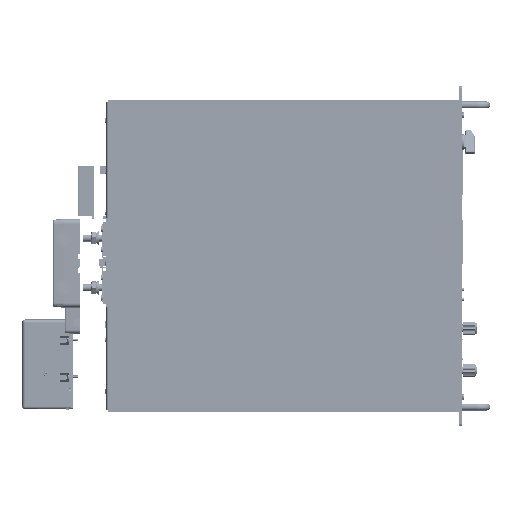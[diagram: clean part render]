
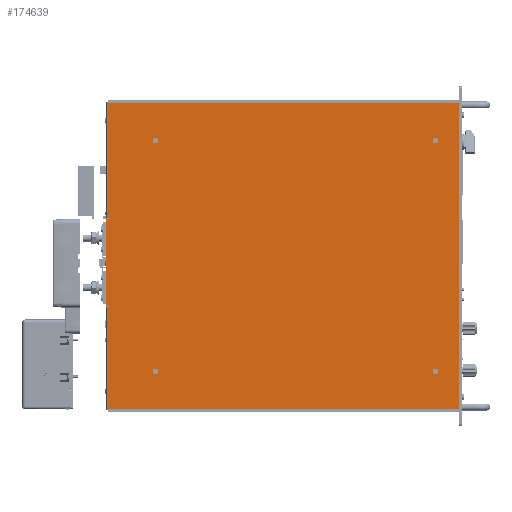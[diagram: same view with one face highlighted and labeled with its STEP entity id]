
A CAD part, front view. The second image highlights one B-rep face of the part: STEP entity #174639.
In plain terms, the highlighted planar face has unit normal (0, -1, 0).
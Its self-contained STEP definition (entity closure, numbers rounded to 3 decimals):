
#7454=FACE_BOUND('',#24897,.T.);
#7455=FACE_BOUND('',#24898,.T.);
#7456=FACE_BOUND('',#24899,.T.);
#7457=FACE_BOUND('',#24900,.T.);
#8592=PLANE('',#184592);
#15006=FACE_OUTER_BOUND('',#24896,.T.);
#24896=EDGE_LOOP('',(#115905,#115906,#115907,#115908,#115909,#115910,#115911,
#115912,#115913,#115914,#115915,#115916));
#24897=EDGE_LOOP('',(#115917));
#24898=EDGE_LOOP('',(#115918));
#24899=EDGE_LOOP('',(#115919));
#24900=EDGE_LOOP('',(#115920));
#35630=CIRCLE('',#184593,3.85);
#35631=CIRCLE('',#184594,3.85);
#35632=CIRCLE('',#184595,3.85);
#35633=CIRCLE('',#184596,3.85);
#41346=LINE('',#245086,#57078);
#41362=LINE('',#245134,#57094);
#41389=LINE('',#245203,#57121);
#41392=LINE('',#245209,#57124);
#41393=LINE('',#245211,#57125);
#41394=LINE('',#245212,#57126);
#41395=LINE('',#245214,#57127);
#41396=LINE('',#245216,#57128);
#41397=LINE('',#245218,#57129);
#41398=LINE('',#245220,#57130);
#41399=LINE('',#245222,#57131);
#41400=LINE('',#245223,#57132);
#57078=VECTOR('',#199422,10.);
#57094=VECTOR('',#199456,10.);
#57121=VECTOR('',#199503,10.);
#57124=VECTOR('',#199508,10.);
#57125=VECTOR('',#199509,10.);
#57126=VECTOR('',#199510,10.);
#57127=VECTOR('',#199511,10.);
#57128=VECTOR('',#199512,10.);
#57129=VECTOR('',#199513,10.);
#57130=VECTOR('',#199514,10.);
#57131=VECTOR('',#199515,10.);
#57132=VECTOR('',#199516,10.);
#73538=VERTEX_POINT('',#245045);
#73543=VERTEX_POINT('',#245056);
#73554=VERTEX_POINT('',#245085);
#73567=VERTEX_POINT('',#245133);
#73589=VERTEX_POINT('',#245202);
#73591=VERTEX_POINT('',#245208);
#73592=VERTEX_POINT('',#245210);
#73593=VERTEX_POINT('',#245213);
#73594=VERTEX_POINT('',#245215);
#73595=VERTEX_POINT('',#245217);
#73596=VERTEX_POINT('',#245219);
#73597=VERTEX_POINT('',#245221);
#73598=VERTEX_POINT('',#245224);
#73599=VERTEX_POINT('',#245226);
#73600=VERTEX_POINT('',#245228);
#73601=VERTEX_POINT('',#245230);
#90167=EDGE_CURVE('',#73554,#73538,#41346,.T.);
#90186=EDGE_CURVE('',#73567,#73543,#41362,.T.);
#90216=EDGE_CURVE('',#73589,#73567,#41389,.T.);
#90219=EDGE_CURVE('',#73543,#73591,#41392,.T.);
#90220=EDGE_CURVE('',#73591,#73592,#41393,.T.);
#90221=EDGE_CURVE('',#73592,#73554,#41394,.T.);
#90222=EDGE_CURVE('',#73538,#73593,#41395,.T.);
#90223=EDGE_CURVE('',#73593,#73594,#41396,.T.);
#90224=EDGE_CURVE('',#73594,#73595,#41397,.T.);
#90225=EDGE_CURVE('',#73595,#73596,#41398,.T.);
#90226=EDGE_CURVE('',#73596,#73597,#41399,.T.);
#90227=EDGE_CURVE('',#73597,#73589,#41400,.T.);
#90228=EDGE_CURVE('',#73598,#73598,#35630,.T.);
#90229=EDGE_CURVE('',#73599,#73599,#35631,.T.);
#90230=EDGE_CURVE('',#73600,#73600,#35632,.T.);
#90231=EDGE_CURVE('',#73601,#73601,#35633,.T.);
#115905=ORIENTED_EDGE('',*,*,#90186,.T.);
#115906=ORIENTED_EDGE('',*,*,#90219,.T.);
#115907=ORIENTED_EDGE('',*,*,#90220,.T.);
#115908=ORIENTED_EDGE('',*,*,#90221,.T.);
#115909=ORIENTED_EDGE('',*,*,#90167,.T.);
#115910=ORIENTED_EDGE('',*,*,#90222,.T.);
#115911=ORIENTED_EDGE('',*,*,#90223,.T.);
#115912=ORIENTED_EDGE('',*,*,#90224,.T.);
#115913=ORIENTED_EDGE('',*,*,#90225,.T.);
#115914=ORIENTED_EDGE('',*,*,#90226,.T.);
#115915=ORIENTED_EDGE('',*,*,#90227,.T.);
#115916=ORIENTED_EDGE('',*,*,#90216,.T.);
#115917=ORIENTED_EDGE('',*,*,#90228,.T.);
#115918=ORIENTED_EDGE('',*,*,#90229,.T.);
#115919=ORIENTED_EDGE('',*,*,#90230,.T.);
#115920=ORIENTED_EDGE('',*,*,#90231,.T.);
#174639=ADVANCED_FACE('',(#15006,#7454,#7455,#7456,#7457),#8592,.F.);
#184592=AXIS2_PLACEMENT_3D('',#245207,#199506,#199507);
#184593=AXIS2_PLACEMENT_3D('',#245225,#199517,#199518);
#184594=AXIS2_PLACEMENT_3D('',#245227,#199519,#199520);
#184595=AXIS2_PLACEMENT_3D('',#245229,#199521,#199522);
#184596=AXIS2_PLACEMENT_3D('',#245231,#199523,#199524);
#199422=DIRECTION('',(0.,0.,-1.));
#199456=DIRECTION('',(0.,0.,-1.));
#199503=DIRECTION('',(-1.,0.,0.));
#199506=DIRECTION('center_axis',(0.,1.,0.));
#199507=DIRECTION('ref_axis',(0.,0.,
-1.));
#199508=DIRECTION('',(1.,0.,0.));
#199509=DIRECTION('',(0.,0.,1.));
#199510=DIRECTION('',(-1.,0.,0.));
#199511=DIRECTION('',(1.,0.,0.));
#199512=DIRECTION('',(0.,0.,-1.));
#199513=DIRECTION('',(-1.,0.,0.));
#199514=DIRECTION('',(0.,0.,-1.));
#199515=DIRECTION('',(1.,0.,0.));
#199516=DIRECTION('',(0.,0.,-1.));
#199517=DIRECTION('center_axis',(0.,1.,0.));
#199518=DIRECTION('ref_axis',(0.,0.,
1.));
#199519=DIRECTION('center_axis',(0.,1.,0.));
#199520=DIRECTION('ref_axis',(0.,0.,
1.));
#199521=DIRECTION('center_axis',(0.,1.,0.));
#199522=DIRECTION('ref_axis',(0.,0.,
1.));
#199523=DIRECTION('center_axis',(0.,1.,0.));
#199524=DIRECTION('ref_axis',(0.,0.,
1.));
#245045=CARTESIAN_POINT('',(-503.,2.,54.3));
#245056=CARTESIAN_POINT('',(-503.,2.,-219.));
#245085=CARTESIAN_POINT('',(-503.,2.,219.));
#245086=CARTESIAN_POINT('',(-503.,2.,109.5));
#245133=CARTESIAN_POINT('',(-503.,2.,-73.));
#245134=CARTESIAN_POINT('',(-503.,2.,-36.5));
#245202=CARTESIAN_POINT('',(-502.5,2.,-73.));
#245203=CARTESIAN_POINT('',(-378.375,2.,-73.));
#245207=CARTESIAN_POINT('Origin',(-254.25,2.,0.));
#245208=CARTESIAN_POINT('',(-2.5,2.,-219.));
#245209=CARTESIAN_POINT('',(-506.,2.,-219.));
#245210=CARTESIAN_POINT('',(-2.5,2.,219.));
#245211=CARTESIAN_POINT('',(-2.5,2.,-219.));
#245212=CARTESIAN_POINT('',(-2.5,2.,219.));
#245213=CARTESIAN_POINT('',(-502.5,2.,54.3));
#245214=CARTESIAN_POINT('',(-380.125,2.,54.3));
#245215=CARTESIAN_POINT('',(-502.5,2.,52.));
#245216=CARTESIAN_POINT('',(-502.5,2.,27.15));
#245217=CARTESIAN_POINT('',(-506.,2.,52.));
#245218=CARTESIAN_POINT('',(-378.375,2.,52.));
#245219=CARTESIAN_POINT('',(-506.,2.,-70.7));
#245220=CARTESIAN_POINT('',(-506.,2.,219.));
#245221=CARTESIAN_POINT('',(-502.5,2.,-70.7));
#245222=CARTESIAN_POINT('',(-380.125,2.,-70.7));
#245223=CARTESIAN_POINT('',(-502.5,2.,-35.35));
#245224=CARTESIAN_POINT('',(-436.,2.,160.15));
#245225=CARTESIAN_POINT('Origin',(-436.,2.,164.));
#245226=CARTESIAN_POINT('',(-436.,2.,-167.85));
#245227=CARTESIAN_POINT('Origin',(-436.,2.,-164.));
#245228=CARTESIAN_POINT('',(-37.5,2.,-167.85));
#245229=CARTESIAN_POINT('Origin',(-37.5,2.,-164.));
#245230=CARTESIAN_POINT('',(-37.5,2.,160.15));
#245231=CARTESIAN_POINT('Origin',(-37.5,2.,164.));
